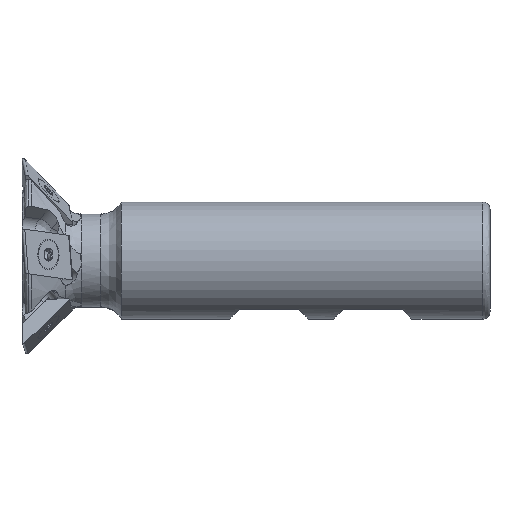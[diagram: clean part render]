
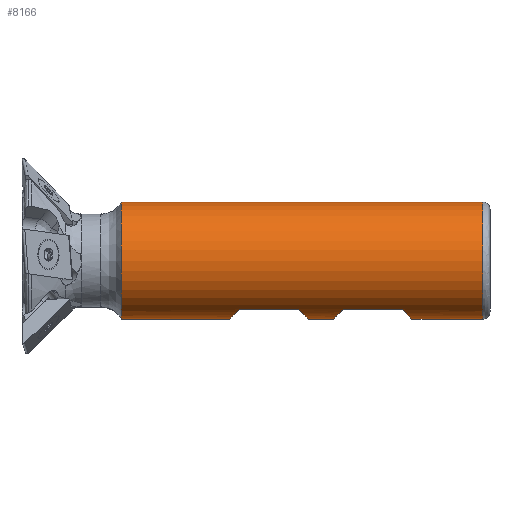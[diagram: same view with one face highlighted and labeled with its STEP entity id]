
A CAD part, front view. The second image highlights one B-rep face of the part: STEP entity #8166.
In plain terms, the highlighted cylindrical face has radius 12.696 mm (diameter 25.392 mm), a partial arc.
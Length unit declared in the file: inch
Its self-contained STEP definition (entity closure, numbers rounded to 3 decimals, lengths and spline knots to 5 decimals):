
#375 = DIRECTION ( 'NONE',  ( -1., 0., 0. ) ) ;
#519 = VECTOR ( 'NONE', #8141, 39.37008 ) ;
#673 = ORIENTED_EDGE ( 'NONE', *, *, #4128, .T. ) ;
#781 = DIRECTION ( 'NONE',  ( -1., 0., 0. ) ) ;
#904 = VECTOR ( 'NONE', #10051, 39.37008 ) ;
#915 = ORIENTED_EDGE ( 'NONE', *, *, #13065, .T. ) ;
#965 = ORIENTED_EDGE ( 'NONE', *, *, #9998, .T. ) ;
#1083 = CARTESIAN_POINT ( 'NONE',  ( -0.75, -0.27538, -0.41715 ) ) ;
#1150 = EDGE_CURVE ( 'NONE', #11607, #6669, #11380, .T. ) ;
#1223 = FACE_OUTER_BOUND ( 'NONE', #6619, .T. ) ;
#1587 = CARTESIAN_POINT ( 'NONE',  ( -0.0625, 0., 0. ) ) ;
#2103 = VERTEX_POINT ( 'NONE', #11059 ) ;
#2219 =( BOUNDED_CURVE ( )  B_SPLINE_CURVE ( 3, ( #2786, #3151, #3244, #3285 ),
 .UNSPECIFIED., .F., .T. ) 
 B_SPLINE_CURVE_WITH_KNOTS ( ( 4, 4 ),
 ( 0., 0.58348 ),
 .UNSPECIFIED. ) 
 CURVE ( )  GEOMETRIC_REPRESENTATION_ITEM ( )  RATIONAL_B_SPLINE_CURVE ( ( 1., 0.972, 0.972, 1. ) ) 
 REPRESENTATION_ITEM ( '' )  );
#2281 = EDGE_CURVE ( 'NONE', #2103, #8500, #8020, .T. ) ;
#2373 = EDGE_CURVE ( 'NONE', #3674, #7881, #11992, .T. ) ;
#2432 = VERTEX_POINT ( 'NONE', #1083 ) ;
#2604 = CARTESIAN_POINT ( 'NONE',  ( -1.3377, -0.09862, -0.49985 ) ) ;
#2658 = DIRECTION ( 'NONE',  ( 0., 0., 1. ) ) ;
#2786 = CARTESIAN_POINT ( 'NONE',  ( -2.2227, 0., -0.49985 ) ) ;
#3151 = CARTESIAN_POINT ( 'NONE',  ( -2.2227, -0.09862, -0.49985 ) ) ;
#3244 = CARTESIAN_POINT ( 'NONE',  ( -2.19433, -0.19308, -0.47148 ) ) ;
#3281 = DIRECTION ( 'NONE',  ( 1., 0., 0. ) ) ;
#3285 = CARTESIAN_POINT ( 'NONE',  ( -2.14, -0.27538, -0.41715 ) ) ;
#3311 = EDGE_CURVE ( 'NONE', #9437, #2432, #4538, .T. ) ;
#3674 = VERTEX_POINT ( 'NONE', #7701 ) ;
#3980 = AXIS2_PLACEMENT_3D ( 'NONE', #6025, #781, #6061 ) ;
#4014 = CARTESIAN_POINT ( 'NONE',  ( -3.15, 0., 0.49985 ) ) ;
#4122 = ORIENTED_EDGE ( 'NONE', *, *, #3311, .T. ) ;
#4128 = EDGE_CURVE ( 'NONE', #9554, #3674, #2219, .T. ) ;
#4165 = DIRECTION ( 'NONE',  ( 1., 0., 0. ) ) ;
#4522 = ORIENTED_EDGE ( 'NONE', *, *, #8738, .F. ) ;
#4538 = LINE ( 'NONE', #8709, #9809 ) ;
#4781 = CARTESIAN_POINT ( 'NONE',  ( -0.69567, -0.19308, -0.47148 ) ) ;
#4810 = AXIS2_PLACEMENT_3D ( 'NONE', #9584, #3281, #10648 ) ;
#4914 = VERTEX_POINT ( 'NONE', #9327 ) ;
#4955 = CARTESIAN_POINT ( 'NONE',  ( -8.15333, -0.27538, -0.41715 ) ) ;
#5311 = CIRCLE ( 'NONE', #4810, 0.49985 ) ;
#5465 = CARTESIAN_POINT ( 'NONE',  ( -1.635, -0.27538, -0.41715 ) ) ;
#5798 = CARTESIAN_POINT ( 'NONE',  ( -1.255, -0.27538, -0.41715 ) ) ;
#5899 = CARTESIAN_POINT ( 'NONE',  ( -0.6673, 0., -0.49985 ) ) ;
#6025 = CARTESIAN_POINT ( 'NONE',  ( -8.15333, 0., 0. ) ) ;
#6061 = DIRECTION ( 'NONE',  ( 0., 0., 1. ) ) ;
#6190 = CARTESIAN_POINT ( 'NONE',  ( -1.5523, 0., -0.49985 ) ) ;
#6228 = CARTESIAN_POINT ( 'NONE',  ( -1.5523, -0.09862, -0.49985 ) ) ;
#6357 = CARTESIAN_POINT ( 'NONE',  ( -1.635, -0.27538, -0.41715 ) ) ;
#6409 = CARTESIAN_POINT ( 'NONE',  ( -1.58067, -0.19308, -0.47148 ) ) ;
#6619 = EDGE_LOOP ( 'NONE', ( #10610, #965, #8527, #915, #4522, #673, #10265, #13524, #9563, #10127, #4122, #13106 ) ) ;
#6669 = VERTEX_POINT ( 'NONE', #8198 ) ;
#6732 = EDGE_CURVE ( 'NONE', #7881, #8500, #9972, .T. ) ;
#6869 = CARTESIAN_POINT ( 'NONE',  ( -8.15333, 0., -0.49985 ) ) ;
#7500 = EDGE_CURVE ( 'NONE', #2432, #6669, #8858, .T. ) ;
#7602 = CARTESIAN_POINT ( 'NONE',  ( -1.255, -0.27538, -0.41715 ) ) ;
#7701 = CARTESIAN_POINT ( 'NONE',  ( -2.14, -0.27538, -0.41715 ) ) ;
#7881 = VERTEX_POINT ( 'NONE', #5465 ) ;
#7954 = DIRECTION ( 'NONE',  ( -1., 0., 0. ) ) ;
#7984 = CYLINDRICAL_SURFACE ( 'NONE', #3980, 0.49985 ) ;
#8020 = LINE ( 'NONE', #10049, #10835 ) ;
#8045 = CARTESIAN_POINT ( 'NONE',  ( -8.15333, 0., -0.49985 ) ) ;
#8141 = DIRECTION ( 'NONE',  ( -1., 0., 0. ) ) ;
#8166 = ADVANCED_FACE ( 'NONE', ( #1223 ), #7984, .T. ) ;
#8198 = CARTESIAN_POINT ( 'NONE',  ( -0.6673, 0., -0.49985 ) ) ;
#8367 = LINE ( 'NONE', #12974, #13640 ) ;
#8500 = VERTEX_POINT ( 'NONE', #9976 ) ;
#8527 = ORIENTED_EDGE ( 'NONE', *, *, #11334, .T. ) ;
#8709 = CARTESIAN_POINT ( 'NONE',  ( -8.15333, -0.27538, -0.41715 ) ) ;
#8738 = EDGE_CURVE ( 'NONE', #9554, #4914, #8960, .T. ) ;
#8746 = CARTESIAN_POINT ( 'NONE',  ( -0.0625, 0., -0.49985 ) ) ;
#8751 = DIRECTION ( 'NONE',  ( 1., 0., 0. ) ) ;
#8847 = VECTOR ( 'NONE', #4165, 39.37008 ) ;
#8858 =( BOUNDED_CURVE ( )  B_SPLINE_CURVE ( 3, ( #9025, #4781, #12223, #5899 ),
 .UNSPECIFIED., .F., .F. ) 
 B_SPLINE_CURVE_WITH_KNOTS ( ( 4, 4 ),
 ( 2.55811, 3.14159 ),
 .UNSPECIFIED. ) 
 CURVE ( )  GEOMETRIC_REPRESENTATION_ITEM ( )  RATIONAL_B_SPLINE_CURVE ( ( 1., 0.972, 0.972, 1. ) ) 
 REPRESENTATION_ITEM ( '' )  );
#8960 = LINE ( 'NONE', #6869, #904 ) ;
#8972 = DIRECTION ( 'NONE',  ( -1., 0., 0. ) ) ;
#9025 = CARTESIAN_POINT ( 'NONE',  ( -0.75, -0.27538, -0.41715 ) ) ;
#9327 = CARTESIAN_POINT ( 'NONE',  ( -3.15, 0., -0.49985 ) ) ;
#9437 = VERTEX_POINT ( 'NONE', #7602 ) ;
#9497 =( BOUNDED_CURVE ( )  B_SPLINE_CURVE ( 3, ( #10002, #2604, #12127, #5798 ),
 .UNSPECIFIED., .F., .T. ) 
 B_SPLINE_CURVE_WITH_KNOTS ( ( 4, 4 ),
 ( 0., 0.58348 ),
 .UNSPECIFIED. ) 
 CURVE ( )  GEOMETRIC_REPRESENTATION_ITEM ( )  RATIONAL_B_SPLINE_CURVE ( ( 1., 0.972, 0.972, 1. ) ) 
 REPRESENTATION_ITEM ( '' )  );
#9554 = VERTEX_POINT ( 'NONE', #11027 ) ;
#9563 = ORIENTED_EDGE ( 'NONE', *, *, #2281, .F. ) ;
#9575 = VERTEX_POINT ( 'NONE', #10025 ) ;
#9584 = CARTESIAN_POINT ( 'NONE',  ( -3.15, 0., 0. ) ) ;
#9809 = VECTOR ( 'NONE', #8751, 39.37008 ) ;
#9972 =( BOUNDED_CURVE ( )  B_SPLINE_CURVE ( 3, ( #6357, #6409, #6228, #6190 ),
 .UNSPECIFIED., .F., .F. ) 
 B_SPLINE_CURVE_WITH_KNOTS ( ( 4, 4 ),
 ( 2.55811, 3.14159 ),
 .UNSPECIFIED. ) 
 CURVE ( )  GEOMETRIC_REPRESENTATION_ITEM ( )  RATIONAL_B_SPLINE_CURVE ( ( 1., 0.972, 0.972, 1. ) ) 
 REPRESENTATION_ITEM ( '' )  );
#9976 = CARTESIAN_POINT ( 'NONE',  ( -1.5523, 0., -0.49985 ) ) ;
#9998 = EDGE_CURVE ( 'NONE', #11607, #9575, #12897, .T. ) ;
#10002 = CARTESIAN_POINT ( 'NONE',  ( -1.3377, 0., -0.49985 ) ) ;
#10025 = CARTESIAN_POINT ( 'NONE',  ( -0.0625, 0., 0.49985 ) ) ;
#10049 = CARTESIAN_POINT ( 'NONE',  ( -8.15333, 0., -0.49985 ) ) ;
#10051 = DIRECTION ( 'NONE',  ( -1., 0., 0. ) ) ;
#10127 = ORIENTED_EDGE ( 'NONE', *, *, #10780, .T. ) ;
#10265 = ORIENTED_EDGE ( 'NONE', *, *, #2373, .T. ) ;
#10610 = ORIENTED_EDGE ( 'NONE', *, *, #1150, .F. ) ;
#10648 = DIRECTION ( 'NONE',  ( 0., 0., 1. ) ) ;
#10780 = EDGE_CURVE ( 'NONE', #2103, #9437, #9497, .T. ) ;
#10835 = VECTOR ( 'NONE', #7954, 39.37008 ) ;
#11027 = CARTESIAN_POINT ( 'NONE',  ( -2.2227, 0., -0.49985 ) ) ;
#11059 = CARTESIAN_POINT ( 'NONE',  ( -1.3377, 0., -0.49985 ) ) ;
#11334 = EDGE_CURVE ( 'NONE', #9575, #12918, #8367, .T. ) ;
#11380 = LINE ( 'NONE', #8045, #519 ) ;
#11607 = VERTEX_POINT ( 'NONE', #8746 ) ;
#11992 = LINE ( 'NONE', #4955, #8847 ) ;
#12127 = CARTESIAN_POINT ( 'NONE',  ( -1.30933, -0.19308, -0.47148 ) ) ;
#12223 = CARTESIAN_POINT ( 'NONE',  ( -0.6673, -0.09862, -0.49985 ) ) ;
#12331 = AXIS2_PLACEMENT_3D ( 'NONE', #1587, #8972, #2658 ) ;
#12897 = CIRCLE ( 'NONE', #12331, 0.49985 ) ;
#12918 = VERTEX_POINT ( 'NONE', #4014 ) ;
#12974 = CARTESIAN_POINT ( 'NONE',  ( -8.15333, 0., 0.49985 ) ) ;
#13065 = EDGE_CURVE ( 'NONE', #12918, #4914, #5311, .T. ) ;
#13106 = ORIENTED_EDGE ( 'NONE', *, *, #7500, .T. ) ;
#13524 = ORIENTED_EDGE ( 'NONE', *, *, #6732, .T. ) ;
#13640 = VECTOR ( 'NONE', #375, 39.37008 ) ;
